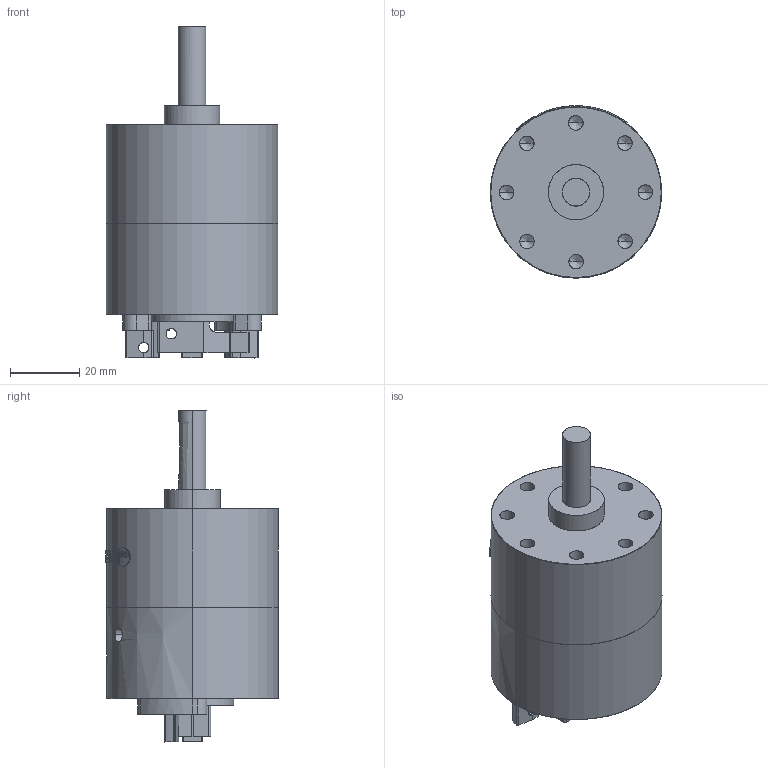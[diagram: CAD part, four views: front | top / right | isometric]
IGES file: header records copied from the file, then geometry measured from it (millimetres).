
Start section: SolidWorks IGES file using analytic representation for surfaces
Global section: file name: C:\Users\Chieh_Lu\Dropbox\¤u§@«Ç\PRO\PROA20S\PROA20S-#-#\PROA20S-#-#.IGS; native system: SolidWorks 2014; preprocessor: SolidWorks 2014; author: Chieh_Lu; date: 150731.014323; units: millimetre
Bounding box: 49.5 x 49.78 x 96 mm (x, y, z)
Surface area: 26919.2 mm2 (no closed solid volume)
Topology: 0 solids, 0 shells, 361 faces, 5259 edges, 5239 vertices
Faces by surface type: revolution 190, bspline 171
